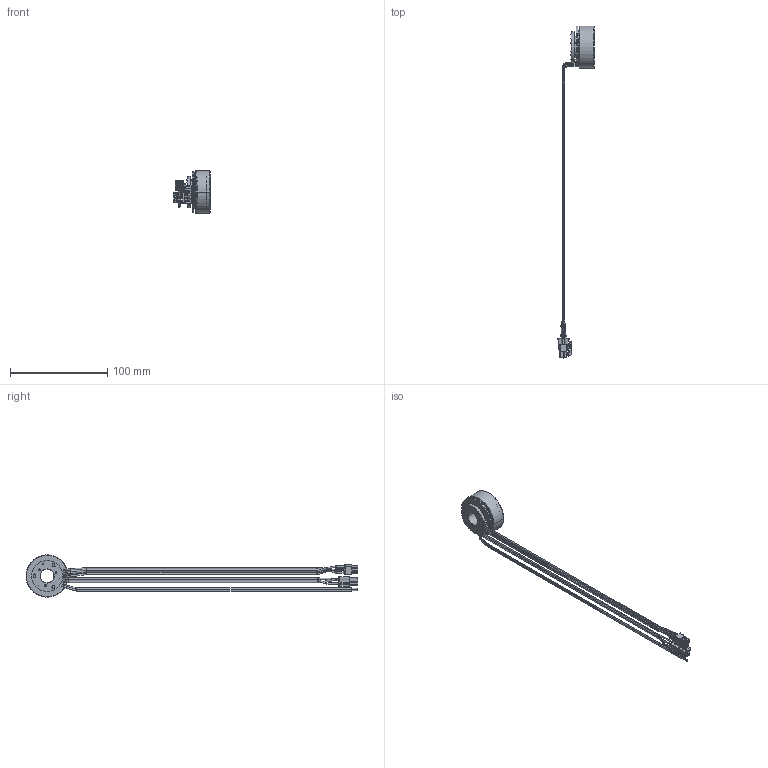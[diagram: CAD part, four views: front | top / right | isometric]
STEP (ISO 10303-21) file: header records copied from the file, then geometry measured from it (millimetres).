
FILE_DESCRIPTION((''),'2;1');
FILE_NAME('543631','2017-02-17T',('mmagpetk'),(''),'CREO PARAMETRIC BY PTC INC, 2016050','CREO PARAMETRIC BY PTC INC, 2016050','');
FILE_SCHEMA(('CONFIG_CONTROL_DESIGN'));
Length unit declared in the file: millimetre
Products named in the file (1): 543631
Bounding box: 37.5 x 341.05 x 43.4 mm (x, y, z)
Volume: 26218.9 mm3; surface area: 38036.1 mm2
Topology: 4 solids, 4 shells, 1850 faces, 4572 edges, 2806 vertices
Faces by surface type: plane 932, cylinder 667, sphere 112, torus 101, cone 38
Entity records: 84145 total; most frequent: CARTESIAN_POINT 13143, DIRECTION 9719, ORIENTED_EDGE 9144, PRESENTATION_STYLE_ASSIGNMENT 6014, STYLED_ITEM 4576, CURVE_STYLE 4572, EDGE_CURVE 4572, AXIS2_PLACEMENT_3D 3418
